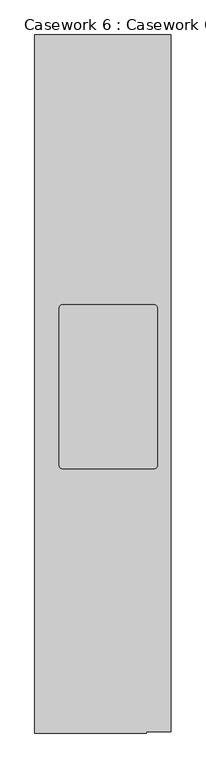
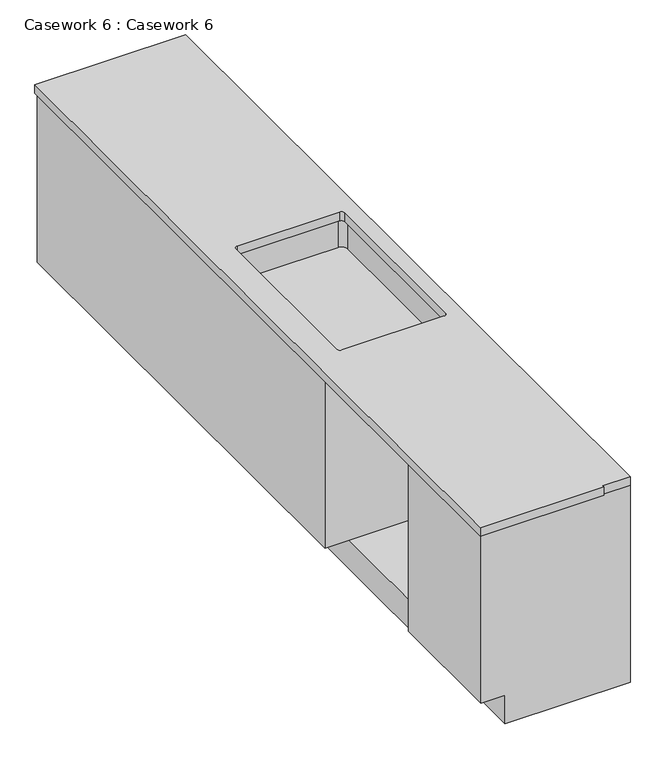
"""IFC4 building model written with IfcOpenShell, lengths in millimetres: furniture geometry, Casework 6 : Casework 6."""

from ifc_helpers import new_model, si_unit, point, frame, frame_2d, origin, place, context, project, spatial, polyline, circle_curve, trimmed, segment, composite_curve, outline, extrude, source, transform, mapped, element, save
from ifc_brep_helpers import plane_surface, revolved_surface, advanced_brep


def casework_6_casework_6_d7503c27(model_context):
    return source(origin(), model_context, "Body", "SolidModel", [
        extrude(outline(polyline([(3937.0, 8229.4947939), (3937.0, 4984.6447939), (3822.7, 4984.6447939), (3822.7, 4978.2947939), (3302.0, 4978.2947939), (3302.0, 8229.4947939), (3937.0, 8229.4947939)]), holes=[composite_curve([segment(polyline([(3429.0, 6210.1947939), (3860.8, 6210.1947939)]), True, "CONTINUOUS"), segment(trimmed(circle_curve(frame_2d((3860.8, 6222.8947939)), 12.7), [point((3860.8, 6210.1947939))], [point((3873.5, 6222.8947939))], True, "CARTESIAN"), True, "CONTINUOUS"), segment(polyline([(3873.5, 6222.8947939), (3873.5, 6959.4947939)]), True, "CONTINUOUS"), segment(trimmed(circle_curve(frame_2d((3860.8, 6959.4947939)), 12.7), [point((3873.5, 6959.4947939))], [point((3860.8, 6972.1947939))], True, "CARTESIAN"), True, "CONTINUOUS"), segment(polyline([(3860.8, 6972.1947939), (3429.0, 6972.1947939)]), True, "CONTINUOUS"), segment(trimmed(circle_curve(frame_2d((3429.0, 6959.4947939)), 12.7), [point((3429.0, 6972.1947939))], [point((3416.3, 6959.4947939))], True, "CARTESIAN"), True, "CONTINUOUS"), segment(polyline([(3416.3, 6959.4947939), (3416.3, 6222.8947939)]), True, "CONTINUOUS"), segment(trimmed(circle_curve(frame_2d((3429.0, 6222.8947939)), 12.7), [point((3416.3, 6222.8947939))], [point((3429.0, 6210.1947939))], True, "CARTESIAN"), True, "CONTINUOUS")], self_intersect=False)]), frame((0.0, 0.0, 4127.5), z_axis=(0.0, 0.0, 1.0), x_axis=(1.0, 0.0, 0.0)), (0.0, 0.0, 1.0), 38.1),
        advanced_brep(
        [(3937.0, 4984.6447939, 4127.5), (3937.0, 8223.1447939, 4127.5), (3308.35, 8223.1447939, 4127.5), (3308.35, 6122.8822939, 4127.5), (3917.95, 6122.8822939, 4127.5), (3917.95, 5513.2822939, 4127.5), (3308.35, 5513.2822939, 4127.5), (3308.35, 4984.6447939, 4127.5), (3429.0, 6984.8947939, 4127.5), (3860.8, 6984.8947939, 4127.5), (3886.2, 6959.4947939, 4127.5), (3886.2, 6222.8947939, 4127.5), (3860.8, 6197.4947939, 4127.5), (3429.0, 6197.4947939, 4127.5), (3403.6, 6222.8947939, 4127.5), (3403.6, 6959.4947939, 4127.5), (3937.0, 8223.1447939, 3251.2), (3937.0, 4984.6447939, 3251.2), (3409.95, 4984.6447939, 3251.2), (3409.95, 8223.1447939, 3251.2), (3409.95, 8223.1447939, 3378.2), (3308.35, 8223.1447939, 3378.2), (3308.35, 6122.8822939, 3378.2), (3308.35, 4984.6447939, 3378.2), (3308.35, 5513.2822939, 3378.2), (3409.95, 4984.6447939, 3378.2), (3409.95, 5513.2822939, 3378.2), (3409.95, 6122.8822939, 3378.2), (3917.95, 6122.8822939, 3378.2), (3917.95, 5513.2822939, 3378.2), (3429.0, 6984.8947939, 4000.5), (3403.6, 6959.4947939, 4000.5), (3403.6, 6222.8947939, 4000.5), (3429.0, 6197.4947939, 4000.5), (3860.8, 6197.4947939, 4000.5), (3886.2, 6222.8947939, 4000.5), (3886.2, 6959.4947939, 4000.5), (3860.8, 6984.8947939, 4000.5)],
        [
            (0, 1),
            (1, 2),
            (2, 3),
            (3, 4),
            (4, 5),
            (5, 6),
            (6, 7),
            (7, 0),
            (8, 9),
            (9, 10, circle_curve(frame((3860.8, 6959.4947939, 4127.5), z_axis=(0.0, 0.0, -1.0), x_axis=(0.0, 1.0, 0.0)), 25.4)),
            (10, 11),
            (11, 12, circle_curve(frame((3860.8, 6222.8947939, 4127.5), z_axis=(0.0, 0.0, -1.0), x_axis=(0.0, 1.0, 0.0)), 25.4)),
            (12, 13),
            (13, 14, circle_curve(frame((3429.0, 6222.8947939, 4127.5), z_axis=(0.0, 0.0, -1.0), x_axis=(0.0, 1.0, 0.0)), 25.4)),
            (14, 15),
            (15, 8, circle_curve(frame((3429.0, 6959.4947939, 4127.5), z_axis=(0.0, 0.0, -1.0), x_axis=(0.0, 1.0, 0.0)), 25.4)),
            (16, 17),
            (17, 18),
            (18, 19),
            (19, 16),
            (0, 17),
            (16, 1),
            (19, 20),
            (20, 21),
            (21, 2),
            (21, 22),
            (22, 3),
            (23, 7),
            (6, 24),
            (24, 23),
            (23, 25),
            (25, 18),
            (25, 26),
            (26, 27),
            (27, 20),
            (27, 22),
            (24, 26),
            (28, 29),
            (29, 5),
            (4, 28),
            (27, 28),
            (29, 26),
            (30, 31, circle_curve(frame((3429.0, 6959.4947939, 4000.5), z_axis=(0.0, 0.0, 1.0), x_axis=(0.0, 1.0, 0.0)), 25.4)),
            (31, 32),
            (32, 33, circle_curve(frame((3429.0, 6222.8947939, 4000.5), z_axis=(0.0, 0.0, 1.0), x_axis=(0.0, 1.0, 0.0)), 25.4)),
            (33, 34),
            (34, 35, circle_curve(frame((3860.8, 6222.8947939, 4000.5), z_axis=(0.0, 0.0, 1.0), x_axis=(0.0, 1.0, 0.0)), 25.4)),
            (35, 36),
            (36, 37, circle_curve(frame((3860.8, 6959.4947939, 4000.5), z_axis=(0.0, 0.0, 1.0), x_axis=(0.0, 1.0, 0.0)), 25.4)),
            (37, 30),
            (37, 9),
            (8, 30),
            (36, 10),
            (35, 11),
            (34, 12),
            (33, 13),
            (32, 14),
            (31, 15),
        ],
        [
            plane_surface(frame((3937.0, 9943.9947939, 4127.5), z_axis=(0.0, 0.0, 1.0), x_axis=(0.0, 1.0, 0.0))),
            plane_surface(frame((3937.0, 9943.9947939, 3251.2), z_axis=(0.0, 0.0, -1.0), x_axis=(0.0, -1.0, 0.0))),
            plane_surface(frame((3937.0, 4984.6447939, 4127.5), z_axis=(1.0, 0.0, 0.0), x_axis=(0.0, 0.0, -1.0))),
            plane_surface(frame((3937.0, 8223.1447939, 4127.5), z_axis=(0.0, 1.0, 0.0), x_axis=(0.0, 0.0, -1.0))),
            plane_surface(frame((3308.35, 8223.1447939, 4127.5), z_axis=(-1.0, 0.0, 0.0), x_axis=(0.0, 0.0, -1.0))),
            plane_surface(frame((3308.35, 4984.6447939, 4127.5), z_axis=(0.0, -1.0, 0.0), x_axis=(0.0, 0.0, -1.0))),
            plane_surface(frame((3409.95, 8223.1447939, 3251.2), z_axis=(-1.0, 0.0, 0.0), x_axis=(0.0, 0.0, 1.0))),
            plane_surface(frame((3409.95, 8223.1447939, 3378.2), z_axis=(0.0, 0.0, -1.0), x_axis=(-1.0, 0.0, 0.0))),
            plane_surface(frame((3917.95, 6122.8822939, 3970.3375), z_axis=(-1.0, 0.0, 0.0), x_axis=(0.0, 0.0, 1.0))),
            plane_surface(frame((3917.95, 6122.8822939, 3378.2), z_axis=(0.0, -1.0, 0.0), x_axis=(-1.0, 0.0, 0.0))),
            plane_surface(frame((3917.95, 5513.2822939, 4127.5), z_axis=(0.0, 1.0, 0.0), x_axis=(-1.0, 0.0, 0.0))),
            plane_surface(frame((3917.95, 5513.2822939, 3378.2), z_axis=(0.0, 0.0, 1.0), x_axis=(-1.0, 0.0, 0.0))),
            plane_surface(frame((3860.8, 6984.8947939, 4000.5), z_axis=(0.0, 0.0, 1.0), x_axis=(1.0, 0.0, 0.0))),
            plane_surface(frame((3429.0, 6984.8947939, 4000.5), z_axis=(0.0, -1.0, 0.0), x_axis=(0.0, 0.0, 1.0))),
            revolved_surface(polyline([(3860.8, 6984.8947939, 4000.5), (3860.8, 6984.8947939, 4127.5)]), (3860.8, 6959.4947939, 4127.5), (0.0, 0.0, -1.0)),
            plane_surface(frame((3886.2, 6959.4947939, 4000.5), z_axis=(-1.0, 0.0, 0.0), x_axis=(0.0, 0.0, 1.0))),
            revolved_surface(polyline([(3860.8, 6248.2947939, 4000.5), (3860.8, 6248.2947939, 4127.5)]), (3860.8, 6222.8947939, 4127.5), (0.0, 0.0, -1.0)),
            plane_surface(frame((3860.8, 6197.4947939, 4000.5), z_axis=(0.0, 1.0, 0.0), x_axis=(0.0, 0.0, 1.0))),
            revolved_surface(polyline([(3429.0, 6248.2947939, 4000.5), (3429.0, 6248.2947939, 4127.5)]), (3429.0, 6222.8947939, 4127.5), (0.0, 0.0, -1.0)),
            plane_surface(frame((3403.6, 6222.8947939, 4000.5), z_axis=(1.0, 0.0, 0.0), x_axis=(0.0, 0.0, 1.0))),
            revolved_surface(polyline([(3429.0, 6984.8947939, 4000.5), (3429.0, 6984.8947939, 4127.5)]), (3429.0, 6959.4947939, 4127.5), (0.0, 0.0, -1.0)),
        ],
        [
            (0, [[1, 2, 3, 4, 5, 6, 7, 8], [9, 10, 11, 12, 13, 14, 15, 16]]),
            (1, [[17, 18, 19, 20]]),
            (2, [[-1, 21, -17, 22]]),
            (3, [[-2, -22, -20, 23, 24, 25]]),
            (4, [[-25, 26, 27, -3]]),
            (4, [[28, -7, 29, 30]]),
            (5, [[-8, -28, 31, 32, -18, -21]]),
            (6, [[-19, -32, 33, 34, 35, -23]]),
            (7, [[-24, -35, 36, -26]]),
            (7, [[-31, -30, 37, -33]]),
            (8, [[38, 39, -5, 40]]),
            (9, [[-40, -4, -27, -36, 41]]),
            (10, [[-39, 42, -37, -29, -6]]),
            (11, [[-38, -41, -34, -42]]),
            (12, [[43, 44, 45, 46, 47, 48, 49, 50]]),
            (13, [[-50, 51, -9, 52]]),
            (14, [[-49, 53, -10, -51]]),
            (15, [[-48, 54, -11, -53]]),
            (16, [[-47, 55, -12, -54]]),
            (17, [[-46, 56, -13, -55]]),
            (18, [[-45, 57, -14, -56]]),
            (19, [[-44, 58, -15, -57]]),
            (20, [[-43, -52, -16, -58]]),
        ],
    ),
    ])


if __name__ == "__main__":
    model = new_model("IFC4")
    model_context = context("Model", 3, world=origin())
    ifc_project = project(units=[si_unit("LENGTHUNIT", "METRE", prefix="MILLI")], contexts=[model_context])
    site = spatial("IfcSite", under=ifc_project)
    building = spatial("IfcBuilding", under=site)
    placement = place(None, origin())
    casework_6_casework_6_shape = casework_6_casework_6_d7503c27(model_context)
    element("IfcFurniture", 1, ObjectType="Casework 6 : Casework 6", at=placement, inside=building, context=model_context, shape_type="MappedRepresentation", body=[
        mapped(casework_6_casework_6_shape, transform((0.0, 0.0, 0.0), x_axis=(1.0, 0.0, 0.0), y_axis=(0.0, 1.0, 0.0), z_axis=(0.0, 0.0, 1.0))),
    ])
    save(model, "model.ifc")
